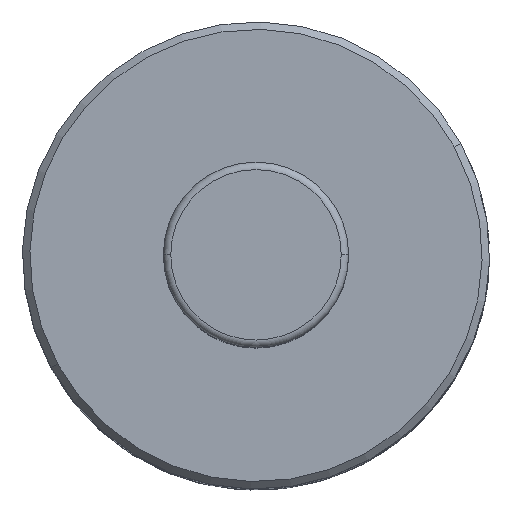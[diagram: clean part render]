
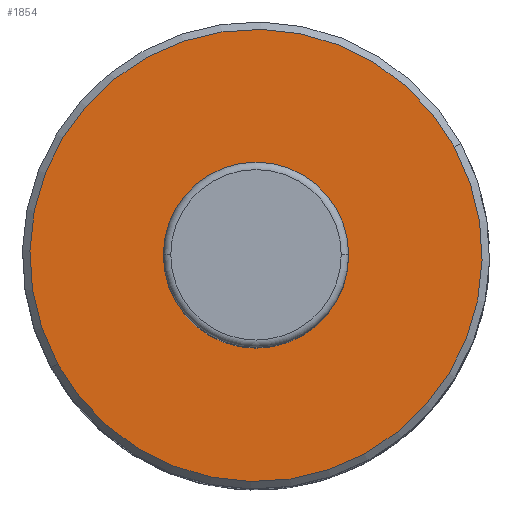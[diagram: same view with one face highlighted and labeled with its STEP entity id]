
A CAD part, top view. The second image highlights one B-rep face of the part: STEP entity #1854.
In plain terms, the highlighted planar face has unit normal (0, 0, 1).
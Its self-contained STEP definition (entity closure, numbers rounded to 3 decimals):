
#1809 = VERTEX_POINT('',#1810);
#1810 = CARTESIAN_POINT('',(-26.766,-14.622,93.));
#1816 = EDGE_CURVE('',#1809,#1817,#1819,.T.);
#1817 = VERTEX_POINT('',#1818);
#1818 = CARTESIAN_POINT('',(26.766,14.622,93.));
#1819 = CIRCLE('',#1820,30.5);
#1820 = AXIS2_PLACEMENT_3D('',#1821,#1822,#1823);
#1821 = CARTESIAN_POINT('',(0.,0.,93.));
#1822 = DIRECTION('',(0.,0.,-1.));
#1823 = DIRECTION('',(-1.,0.,0.));
#1841 = EDGE_CURVE('',#1817,#1809,#1842,.T.);
#1842 = CIRCLE('',#1843,30.5);
#1843 = AXIS2_PLACEMENT_3D('',#1844,#1845,#1846);
#1844 = CARTESIAN_POINT('',(0.,0.,93.));
#1845 = DIRECTION('',(0.,0.,-1.));
#1846 = DIRECTION('',(-1.,0.,0.));
#1854 = ADVANCED_FACE('',(#1855,#1859),#1879,.T.);
#1855 = FACE_BOUND('',#1856,.T.);
#1856 = EDGE_LOOP('',(#1857,#1858));
#1857 = ORIENTED_EDGE('',*,*,#1841,.F.);
#1858 = ORIENTED_EDGE('',*,*,#1816,.F.);
#1859 = FACE_BOUND('',#1860,.T.);
#1860 = EDGE_LOOP('',(#1861,#1872));
#1861 = ORIENTED_EDGE('',*,*,#1862,.F.);
#1862 = EDGE_CURVE('',#1863,#1865,#1867,.T.);
#1863 = VERTEX_POINT('',#1864);
#1864 = CARTESIAN_POINT('',(12.5,0.,93.));
#1865 = VERTEX_POINT('',#1866);
#1866 = CARTESIAN_POINT('',(-12.5,0.,93.));
#1867 = CIRCLE('',#1868,12.5);
#1868 = AXIS2_PLACEMENT_3D('',#1869,#1870,#1871);
#1869 = CARTESIAN_POINT('',(0.,0.,93.));
#1870 = DIRECTION('',(0.,0.,1.));
#1871 = DIRECTION('',(1.,0.,0.));
#1872 = ORIENTED_EDGE('',*,*,#1873,.F.);
#1873 = EDGE_CURVE('',#1865,#1863,#1874,.T.);
#1874 = CIRCLE('',#1875,12.5);
#1875 = AXIS2_PLACEMENT_3D('',#1876,#1877,#1878);
#1876 = CARTESIAN_POINT('',(0.,0.,93.));
#1877 = DIRECTION('',(0.,0.,1.));
#1878 = DIRECTION('',(1.,0.,0.));
#1879 = PLANE('',#1880);
#1880 = AXIS2_PLACEMENT_3D('',#1881,#1882,#1883);
#1881 = CARTESIAN_POINT('',(30.5,0.,93.));
#1882 = DIRECTION('',(0.,0.,1.));
#1883 = DIRECTION('',(1.,0.,0.));
